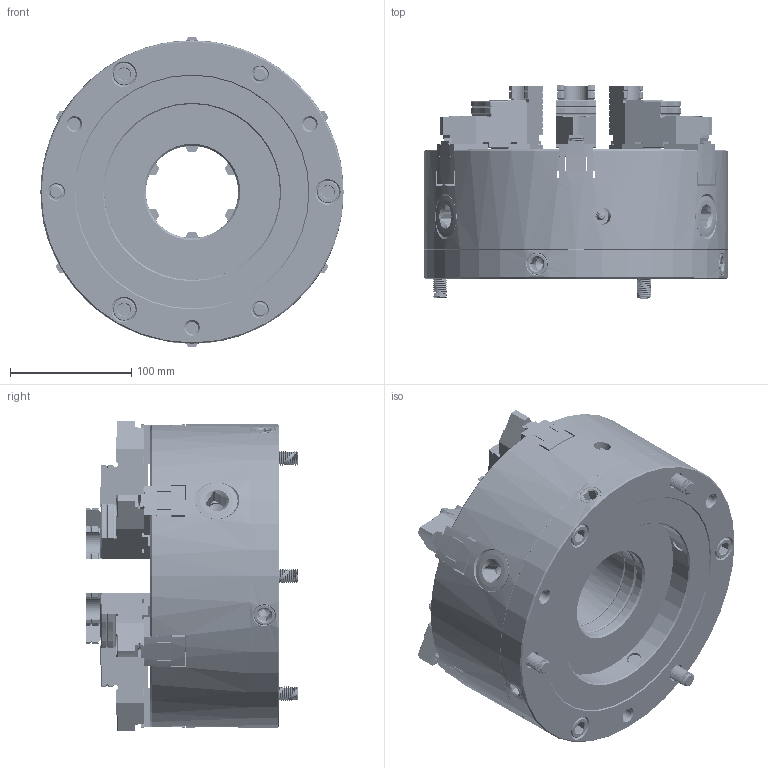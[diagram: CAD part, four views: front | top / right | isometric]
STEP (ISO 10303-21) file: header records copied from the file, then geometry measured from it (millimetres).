
FILE_DESCRIPTION (( 'STEP AP214' ), '1' );
FILE_NAME ('3-868-1000P REV A.STEP', '2024-11-01T15:25:47', ( '' ), ( '' ), 'SwSTEP 2.0', 'SolidWorks 2020', '' );
FILE_SCHEMA (( 'AUTOMOTIVE_DESIGN' ));
Length unit declared in the file: millimetre
Products named in the file (32): 3-888-910P_3-888-910P; 0.500-13 X1.50 SHCS_0.500-13 X1.50 SHCS; 3-886-310P_FOR-WEBSITE; 3-897-12110_M12x1.75X110 SHCS; 3-883-610P_TOP JAW3; 3-887-310P_FOR-WEBSITE; C-CK10-MODULE_C-CK10-MODULE; 3-885-610P_JAW3-FOR-WEBSITE; C-CK10-COVER_C-CK10-COVER; 3-899-310P_3-899-310P; 3-883-610P_TOP JAW5; 3-891-610P_JAW4-FOR-WEBSITE; 0.500-13 X1.00 SHCS_0.500-13 X1.00 SHCS; 3-891-610P_JAW3-FOR-WEBSITE; 3-809-906P_3-809-906P; 3-883-610P_TOP JAW1; 3-891-610P_JAW5-FOR-WEBSITE; 3-883-610P_TOP JAW2; 3-891-610P_JAW2-FOR-WEBSITE; 3-897-610P_3-897-610P; 3-897-12030_M12x1.75X30 SHCS; C-CK10-BDY6JFM_BODY-813; 3-885-610P_JAW6-FOR-WEBSITE; 3-885-610P_JAW2-FOR-WEBSITE; 3-883-610P_TOP JAW4; 3-883-610P_TOP JAW6; 3-885-610P_JAW4-FOR-WEBSITE; 3-868-1000P REV A; 3-891-610P_JAW6-FOR-WEBSITE; 3-891-610P_JAW1-FOR-WEBSITE; 3-885-610P_JAW1-FOR-WEBSITE; 3-885-610P_JAW5-FOR-WEBSITE
Assembly tree (54 placements, depth 3):
  3-868-1000P REV A
    C-CK10-BDY6JFM_BODY-813
    3-887-310P_FOR-WEBSITE
    3-886-310P_FOR-WEBSITE  x3
    C-CK10-COVER_C-CK10-COVER
    3-899-310P_3-899-310P  x3
    C-CK10-MODULE_C-CK10-MODULE
    3-897-12110_M12x1.75X110 SHCS  x3
    3-897-610P_3-897-610P  x4
    3-891-610P_JAW1-FOR-WEBSITE
      3-885-610P_JAW1-FOR-WEBSITE
      3-883-610P_TOP JAW1
      0.500-13 X1.50 SHCS_0.500-13 X1.50 SHCS
      0.500-13 X1.00 SHCS_0.500-13 X1.00 SHCS
    3-891-610P_JAW2-FOR-WEBSITE
      3-885-610P_JAW2-FOR-WEBSITE
      3-883-610P_TOP JAW2
      0.500-13 X1.50 SHCS_0.500-13 X1.50 SHCS
      0.500-13 X1.00 SHCS_0.500-13 X1.00 SHCS
    3-891-610P_JAW6-FOR-WEBSITE
      3-885-610P_JAW6-FOR-WEBSITE
      3-883-610P_TOP JAW6
      0.500-13 X1.50 SHCS_0.500-13 X1.50 SHCS
      0.500-13 X1.00 SHCS_0.500-13 X1.00 SHCS
    3-897-12030_M12x1.75X30 SHCS  x3
    3-888-910P_3-888-910P  x3
    3-891-610P_JAW3-FOR-WEBSITE
      3-885-610P_JAW3-FOR-WEBSITE
      3-883-610P_TOP JAW3
      0.500-13 X1.50 SHCS_0.500-13 X1.50 SHCS
      0.500-13 X1.00 SHCS_0.500-13 X1.00 SHCS
    3-891-610P_JAW4-FOR-WEBSITE
      3-885-610P_JAW4-FOR-WEBSITE
      3-883-610P_TOP JAW4
      0.500-13 X1.50 SHCS_0.500-13 X1.50 SHCS
      0.500-13 X1.00 SHCS_0.500-13 X1.00 SHCS
    3-891-610P_JAW5-FOR-WEBSITE
      3-885-610P_JAW5-FOR-WEBSITE
      3-883-610P_TOP JAW5
      0.500-13 X1.50 SHCS_0.500-13 X1.50 SHCS
      0.500-13 X1.00 SHCS_0.500-13 X1.00 SHCS
    3-809-906P_3-809-906P
Bounding box: 250 x 175.31 x 256.22 mm (x, y, z)
Volume: 4459977.7 mm3; surface area: 843067.1 mm2
Topology: 48 solids, 48 shells, 6130 faces, 16449 edges, 10605 vertices
Faces by surface type: plane 2327, cylinder 1967, cone 1072, bspline 592, torus 162, sphere 10
Entity records: 199683 total; most frequent: CARTESIAN_POINT 92247, ORIENTED_EDGE 23930, DIRECTION 18983, EDGE_CURVE 11965, VERTEX_POINT 7774, VECTOR 6495, LINE 6495, AXIS2_PLACEMENT_3D 6244
